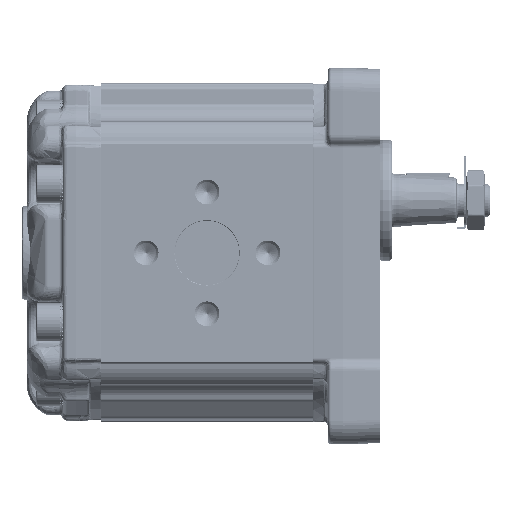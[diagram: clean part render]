
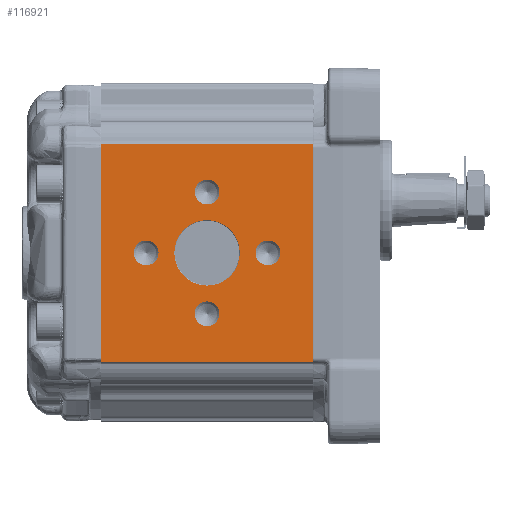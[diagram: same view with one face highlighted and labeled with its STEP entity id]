
A CAD part, left-side view. The second image highlights one B-rep face of the part: STEP entity #116921.
In plain terms, the highlighted planar face has unit normal (-1, 0, 0).
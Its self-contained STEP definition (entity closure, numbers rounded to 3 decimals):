
#6836=PLANE('',#123591);
#9664=LINE('',#179862,#14523);
#9675=LINE('',#179947,#14534);
#9713=LINE('',#180055,#14572);
#9714=LINE('',#180056,#14573);
#14523=VECTOR('',#137571,1000.);
#14534=VECTOR('',#137646,1000.);
#14572=VECTOR('',#137772,1000.);
#14573=VECTOR('',#137773,1000.);
#29612=ORIENTED_EDGE('',*,*,#50603,.T.);
#29613=ORIENTED_EDGE('',*,*,#50604,.T.);
#29614=ORIENTED_EDGE('',*,*,#50605,.T.);
#29615=ORIENTED_EDGE('',*,*,#50606,.T.);
#29616=ORIENTED_EDGE('',*,*,#50607,.T.);
#29617=ORIENTED_EDGE('',*,*,#50507,.F.);
#29618=ORIENTED_EDGE('',*,*,#50608,.T.);
#29619=ORIENTED_EDGE('',*,*,#50549,.F.);
#29620=ORIENTED_EDGE('',*,*,#50609,.T.);
#50507=EDGE_CURVE('',#61868,#61869,#9664,.T.);
#50549=EDGE_CURVE('',#61910,#61911,#9675,.T.);
#50603=EDGE_CURVE('',#61932,#61932,#68744,.F.);
#50604=EDGE_CURVE('',#61933,#61933,#68745,.F.);
#50605=EDGE_CURVE('',#61934,#61934,#68746,.F.);
#50606=EDGE_CURVE('',#61935,#61935,#68747,.F.);
#50607=EDGE_CURVE('',#61936,#61936,#68748,.F.);
#50608=EDGE_CURVE('',#61868,#61911,#9713,.F.);
#50609=EDGE_CURVE('',#61910,#61869,#9714,.F.);
#61868=VERTEX_POINT('',#179861);
#61869=VERTEX_POINT('',#179863);
#61910=VERTEX_POINT('',#179946);
#61911=VERTEX_POINT('',#179948);
#61932=VERTEX_POINT('',#180046);
#61933=VERTEX_POINT('',#180048);
#61934=VERTEX_POINT('',#180050);
#61935=VERTEX_POINT('',#180052);
#61936=VERTEX_POINT('',#180054);
#68744=CIRCLE('',#123592,5.188);
#68745=CIRCLE('',#123593,5.188);
#68746=CIRCLE('',#123594,5.188);
#68747=CIRCLE('',#123595,5.188);
#68748=CIRCLE('',#123596,13.7);
#72994=EDGE_LOOP('',(#29612));
#72995=EDGE_LOOP('',(#29613));
#72996=EDGE_LOOP('',(#29614));
#72997=EDGE_LOOP('',(#29615));
#72998=EDGE_LOOP('',(#29616));
#72999=EDGE_LOOP('',(#29617,#29618,#29619,#29620));
#78060=FACE_BOUND('',#72994,.T.);
#78061=FACE_BOUND('',#72995,.T.);
#78062=FACE_BOUND('',#72996,.T.);
#78063=FACE_BOUND('',#72997,.T.);
#78064=FACE_BOUND('',#72998,.T.);
#78065=FACE_BOUND('',#72999,.T.);
#116921=ADVANCED_FACE('',(#78060,#78061,#78062,#78063,#78064,#78065),#6836,
 .T.);
#123591=AXIS2_PLACEMENT_3D('',#180044,#137760,#137761);
#123592=AXIS2_PLACEMENT_3D('',#180045,#137762,#137763);
#123593=AXIS2_PLACEMENT_3D('',#180047,#137764,#137765);
#123594=AXIS2_PLACEMENT_3D('',#180049,#137766,#137767);
#123595=AXIS2_PLACEMENT_3D('',#180051,#137768,#137769);
#123596=AXIS2_PLACEMENT_3D('',#180053,#137770,#137771);
#137571=DIRECTION('',(0.,0.,1.));
#137646=DIRECTION('',(0.,0.,-1.));
#137760=DIRECTION('',(-1.,0.,0.));
#137761=DIRECTION('',(0.,0.,-1.));
#137762=DIRECTION('',(-1.,0.,0.));
#137763=DIRECTION('',(0.,0.,-1.));
#137764=DIRECTION('',(-1.,0.,0.));
#137765=DIRECTION('',(0.,0.,-1.));
#137766=DIRECTION('',(-1.,0.,0.));
#137767=DIRECTION('',(0.,0.,-1.));
#137768=DIRECTION('',(-1.,0.,0.));
#137769=DIRECTION('',(0.,0.,-1.));
#137770=DIRECTION('',(-1.,0.,0.));
#137771=DIRECTION('',(0.,0.,-1.));
#137772=DIRECTION('',(0.,1.,0.));
#137773=DIRECTION('',(0.,-1.,0.));
#179861=CARTESIAN_POINT('',(-57.5,89.,-45.5));
#179862=CARTESIAN_POINT('',(-57.5,89.,-84.819));
#179863=CARTESIAN_POINT('',(-57.5,89.,45.5));
#179946=CARTESIAN_POINT('',(-57.5,0.,45.5));
#179947=CARTESIAN_POINT('',(-57.5,0.,-44.978));
#179948=CARTESIAN_POINT('',(-57.5,0.,-45.5));
#180044=CARTESIAN_POINT('',(-57.5,-140.475,-84.819));
#180045=CARTESIAN_POINT('',(-57.5,44.5,25.5));
#180046=CARTESIAN_POINT('',(-57.5,44.5,20.312));
#180047=CARTESIAN_POINT('',(-57.5,70.,0.));
#180048=CARTESIAN_POINT('',(-57.5,70.,-5.188));
#180049=CARTESIAN_POINT('',(-57.5,44.5,-25.5));
#180050=CARTESIAN_POINT('',(-57.5,44.5,-30.688));
#180051=CARTESIAN_POINT('',(-57.5,19.,0.));
#180052=CARTESIAN_POINT('',(-57.5,19.,-5.188));
#180053=CARTESIAN_POINT('',(-57.5,44.5,0.));
#180054=CARTESIAN_POINT('',(-57.5,44.5,-13.7));
#180055=CARTESIAN_POINT('',(-57.5,-140.475,-45.5));
#180056=CARTESIAN_POINT('',(-57.5,-140.475,45.5));
